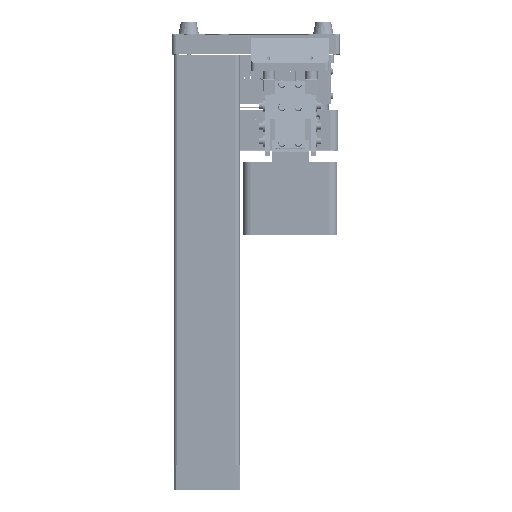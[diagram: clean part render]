
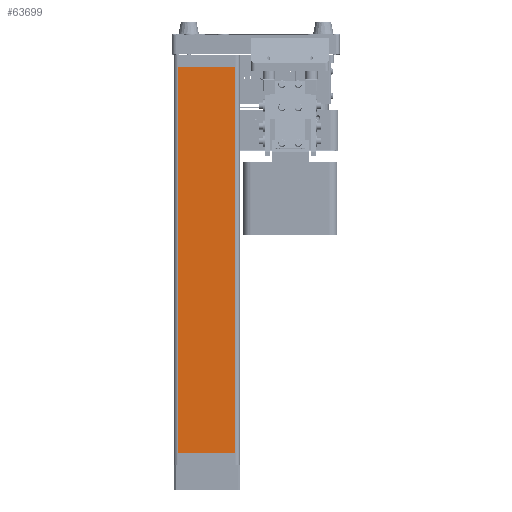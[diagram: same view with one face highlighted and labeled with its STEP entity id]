
A CAD part, left-side view. The second image highlights one B-rep face of the part: STEP entity #63699.
In plain terms, the highlighted planar face has unit normal (-1, 0, 0).
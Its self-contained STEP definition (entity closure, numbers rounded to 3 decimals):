
#2653 = DIRECTION ( 'NONE',  ( 0., 1., 0. ) ) ;
#8271 = CARTESIAN_POINT ( 'NONE',  ( -147.86, 289.215, 461.5 ) ) ;
#19688 = VECTOR ( 'NONE', #31652, 1000. ) ;
#24069 = LINE ( 'NONE', #38710, #42441 ) ;
#31652 = DIRECTION ( 'NONE',  ( 0., -1., 0. ) ) ;
#32342 = LINE ( 'NONE', #139059, #19688 ) ;
#32388 = VERTEX_POINT ( 'NONE', #34273 ) ;
#34273 = CARTESIAN_POINT ( 'NONE',  ( -147.86, 359.215, 461.4 ) ) ;
#34672 = VECTOR ( 'NONE', #65898, 1000. ) ;
#38011 = DIRECTION ( 'NONE',  ( 0., 1., 0. ) ) ;
#38710 = CARTESIAN_POINT ( 'NONE',  ( -147.86, 359.215, 461.4 ) ) ;
#39876 = ORIENTED_EDGE ( 'NONE', *, *, #67060, .T. ) ;
#40427 = VECTOR ( 'NONE', #136207, 1000. ) ;
#41317 = VERTEX_POINT ( 'NONE', #102405 ) ;
#41383 = VERTEX_POINT ( 'NONE', #125679 ) ;
#42441 = VECTOR ( 'NONE', #38011, 1000. ) ;
#46787 = AXIS2_PLACEMENT_3D ( 'NONE', #109363, #55668, #2653 ) ;
#47509 = CARTESIAN_POINT ( 'NONE',  ( -147.86, 359.215, 461.5 ) ) ;
#55052 = EDGE_LOOP ( 'NONE', ( #39876, #95236, #71304, #56572 ) ) ;
#55668 = DIRECTION ( 'NONE',  ( 1., 0., 0. ) ) ;
#56386 = FACE_OUTER_BOUND ( 'NONE', #55052, .T. ) ;
#56572 = ORIENTED_EDGE ( 'NONE', *, *, #97485, .T. ) ;
#60626 = EDGE_CURVE ( 'NONE', #89764, #32388, #24069, .T. ) ;
#63699 = ADVANCED_FACE ( 'NONE', ( #56386 ), #108663, .F. ) ;
#65898 = DIRECTION ( 'NONE',  ( 0., 0., -1. ) ) ;
#67060 = EDGE_CURVE ( 'NONE', #41383, #89764, #117799, .T. ) ;
#71304 = ORIENTED_EDGE ( 'NONE', *, *, #83943, .T. ) ;
#83943 = EDGE_CURVE ( 'NONE', #32388, #41317, #132989, .T. ) ;
#87955 = CARTESIAN_POINT ( 'NONE',  ( -147.86, 289.215, 461.4 ) ) ;
#89764 = VERTEX_POINT ( 'NONE', #87955 ) ;
#95236 = ORIENTED_EDGE ( 'NONE', *, *, #60626, .T. ) ;
#97485 = EDGE_CURVE ( 'NONE', #41317, #41383, #32342, .T. ) ;
#102405 = CARTESIAN_POINT ( 'NONE',  ( -147.86, 359.215, -8.4 ) ) ;
#108663 = PLANE ( 'NONE',  #46787 ) ;
#109363 = CARTESIAN_POINT ( 'NONE',  ( -147.86, 364.215, 461.5 ) ) ;
#117799 = LINE ( 'NONE', #8271, #40427 ) ;
#125679 = CARTESIAN_POINT ( 'NONE',  ( -147.86, 289.215, -8.4 ) ) ;
#132989 = LINE ( 'NONE', #47509, #34672 ) ;
#136207 = DIRECTION ( 'NONE',  ( 0., 0., 1. ) ) ;
#139059 = CARTESIAN_POINT ( 'NONE',  ( -147.86, 364.215, -8.4 ) ) ;
